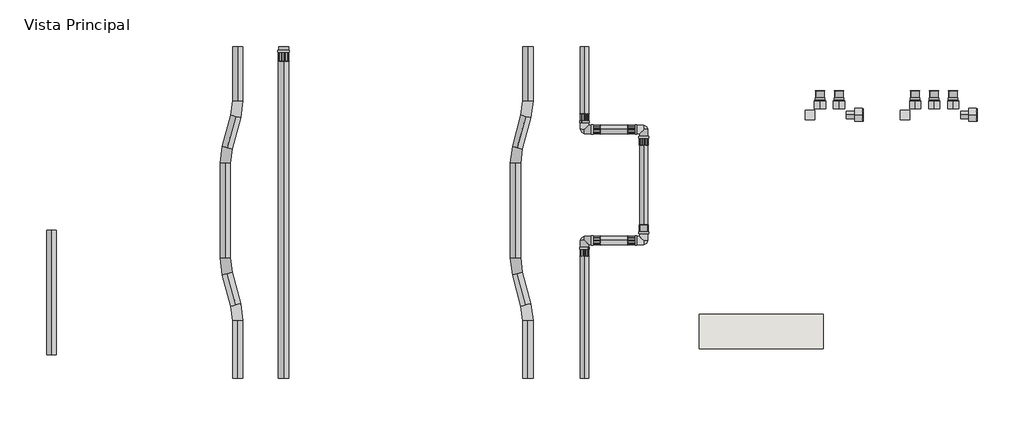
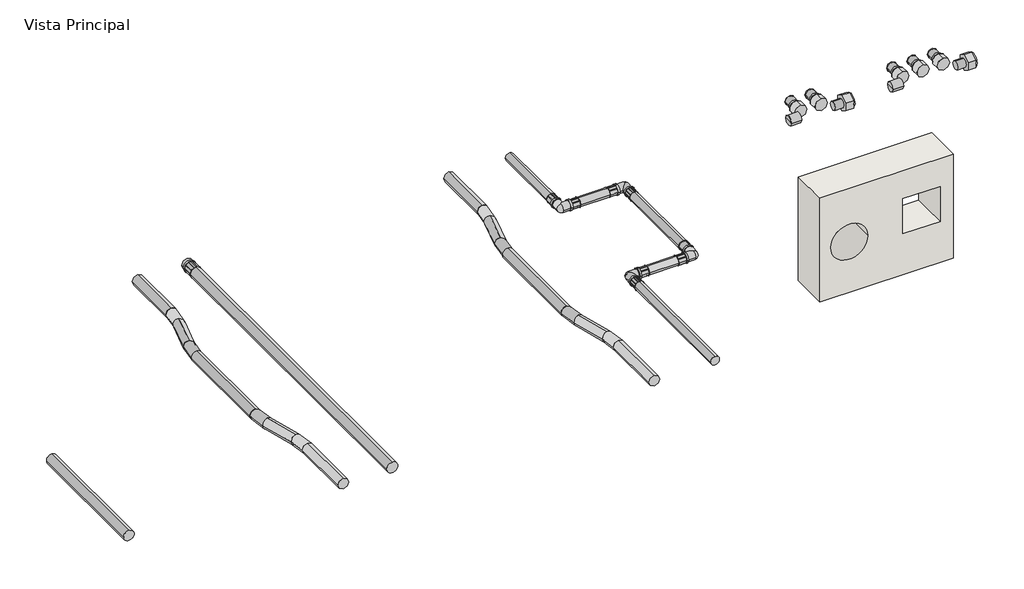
# One storey, incomplete: 36 pipe fittings, 17 pipe segments, 1 wall.
"""IFC4 building model written with IfcOpenShell, lengths in millimetres."""

from ifc_helpers import new_model, si_unit, point, frame, frame_2d, origin, place, context, project, spatial, polyline, circle_curve, trimmed, segment, composite_curve, outline, extrude, transform, mapped, element, save
from components import pipe_fitting_03f075fd, pipe_fitting_e157bfc5, pipe_fitting_eaf84391, pipe_fitting_14b67e64, pipe_fitting_5590baf3, azul_21f91044, rojo_abdd4356, var_25c4f382, var_e74b5a52

model = new_model("IFC4")

# Units and contexts
model_context = context("Model", 3, world=origin())
ifc_project = project(units=[si_unit("LENGTHUNIT", "METRE", prefix="MILLI")], contexts=[model_context])

# Site, building, storey
site = spatial("IfcSite", under=ifc_project)
building = spatial("IfcBuilding", under=site)
storey = spatial("IfcBuildingStorey", under=building, Name="Vista Principal", Elevation=0.0)

# Pipe fittings
placement = place(None, origin())
pipe_fitting_shape = pipe_fitting_03f075fd(model_context)
element("IfcPipeFitting", 1, ObjectType="AmancoWavin_Unionesdetubería_TigrisFlexTapa : Tigris K5", at=placement, inside=storey, context=model_context, shape_type="MappedRepresentation", body=[
    mapped(pipe_fitting_shape, transform((1197.0457902, 1410.1541339, 0.0), x_axis=(0.0, 1.0, 0.0), y_axis=(-1.0, 0.0, 0.0), z_axis=(0.0, 0.0, 1.0))),
])
pipe_fitting_2_shape = pipe_fitting_e157bfc5(model_context)
element("IfcPipeFitting", 2, ObjectType="AmancoWavin_Unionesdetubería_TigrisFlexCodo : Tigris K5", at=placement, inside=storey, context=model_context, shape_type="MappedRepresentation", body=[
    mapped(pipe_fitting_2_shape, transform((2068.0670805, 1170.1541339, 0.0), x_axis=(0.0, -1.0, 0.0), y_axis=(1.0, 0.0, 0.0), z_axis=(0.0, 0.0, 1.0))),
])
element("IfcPipeFitting", 3, ObjectType="AmancoWavin_Unionesdetubería_TigrisFlexCodo : Tigris K5", at=placement, inside=storey, context=model_context, shape_type="MappedRepresentation", body=[
    mapped(pipe_fitting_2_shape, transform((2239.7994926, 1170.1541339, 0.0), x_axis=(0.0, 1.0, 0.0), y_axis=(-1.0, 0.0, 0.0), z_axis=(0.0, 0.0, 1.0))),
])
element("IfcPipeFitting", 4, ObjectType="AmancoWavin_Unionesdetubería_TigrisFlexCodo : Tigris K5", at=placement, inside=storey, context=model_context, shape_type="MappedRepresentation", body=[
    mapped(pipe_fitting_2_shape, transform((2239.7994926, 848.6503168, 0.0), x_axis=(1.0, 0.0, 0.0), y_axis=(0.0, 1.0, 0.0), z_axis=(0.0, 0.0, 1.0))),
])
element("IfcPipeFitting", 5, ObjectType="AmancoWavin_Unionesdetubería_TigrisFlexCodo : Tigris K5", at=placement, inside=storey, context=model_context, shape_type="MappedRepresentation", body=[
    mapped(pipe_fitting_2_shape, transform((2068.0670805, 848.6503168, 0.0), x_axis=(-1.0, 0.0, 0.0), y_axis=(0.0, -1.0, 0.0), z_axis=(0.0, 0.0, 1.0))),
])
pipe_fitting_3_shape = pipe_fitting_eaf84391(model_context)
element("IfcPipeFitting", 6, ObjectType="AmancoWavin_Unionesdetubería_TigrisFlexZNoUsarCampana : Tigris K5", at=placement, inside=storey, context=model_context, shape_type="MappedRepresentation", body=[
    mapped(pipe_fitting_3_shape, transform((2068.0670805, 1190.1541339, 0.0), x_axis=(0.0, -1.0, 0.0), y_axis=(1.0, 0.0, 0.0), z_axis=(0.0, 0.0, 1.0))),
])
element("IfcPipeFitting", 7, ObjectType="AmancoWavin_Unionesdetubería_TigrisFlexZNoUsarCampana : Tigris K5", at=placement, inside=storey, context=model_context, shape_type="MappedRepresentation", body=[
    mapped(pipe_fitting_3_shape, transform((2088.0670805, 1170.1541339, 0.0), x_axis=(-1.0, 0.0, 0.0), y_axis=(0.0, -1.0, 0.0), z_axis=(0.0, 0.0, 1.0))),
])
element("IfcPipeFitting", 8, ObjectType="AmancoWavin_Unionesdetubería_TigrisFlexZNoUsarCampana : Tigris K5", at=placement, inside=storey, context=model_context, shape_type="MappedRepresentation", body=[
    mapped(pipe_fitting_3_shape, transform((2239.7994926, 1150.1541339, 0.0), x_axis=(0.0, 1.0, 0.0), y_axis=(-1.0, 0.0, 0.0), z_axis=(0.0, 0.0, 1.0))),
])
element("IfcPipeFitting", 9, ObjectType="AmancoWavin_Unionesdetubería_TigrisFlexZNoUsarCampana : Tigris K5", at=placement, inside=storey, context=model_context, shape_type="MappedRepresentation", body=[
    mapped(pipe_fitting_3_shape, transform((2219.7994926, 1170.1541339, 0.0), x_axis=(1.0, 0.0, 0.0), y_axis=(0.0, 1.0, 0.0), z_axis=(0.0, 0.0, 1.0))),
])
element("IfcPipeFitting", 10, ObjectType="AmancoWavin_Unionesdetubería_TigrisFlexZNoUsarCampana : Tigris K5", at=placement, inside=storey, context=model_context, shape_type="MappedRepresentation", body=[
    mapped(pipe_fitting_3_shape, transform((2219.7994926, 848.6503168, 0.0), x_axis=(1.0, 0.0, 0.0), y_axis=(0.0, 1.0, 0.0), z_axis=(0.0, 0.0, 1.0))),
])
element("IfcPipeFitting", 11, ObjectType="AmancoWavin_Unionesdetubería_TigrisFlexZNoUsarCampana : Tigris K5", at=placement, inside=storey, context=model_context, shape_type="MappedRepresentation", body=[
    mapped(pipe_fitting_3_shape, transform((2239.7994926, 868.6503168, 0.0), x_axis=(0.0, -1.0, 0.0), y_axis=(1.0, 0.0, 0.0), z_axis=(0.0, 0.0, 1.0))),
])
element("IfcPipeFitting", 12, ObjectType="AmancoWavin_Unionesdetubería_TigrisFlexZNoUsarCampana : Tigris K5", at=placement, inside=storey, context=model_context, shape_type="MappedRepresentation", body=[
    mapped(pipe_fitting_3_shape, transform((2088.0670805, 848.6503168, 0.0), x_axis=(-1.0, 0.0, 0.0), y_axis=(0.0, -1.0, 0.0), z_axis=(0.0, 0.0, 1.0))),
])
element("IfcPipeFitting", 13, ObjectType="AmancoWavin_Unionesdetubería_TigrisFlexZNoUsarCampana : Tigris K5", at=placement, inside=storey, context=model_context, shape_type="MappedRepresentation", body=[
    mapped(pipe_fitting_3_shape, transform((2068.0670805, 828.6503168, 0.0), x_axis=(0.0, 1.0, 0.0), y_axis=(-1.0, 0.0, 0.0), z_axis=(0.0, 0.0, 1.0))),
])
element("IfcPipeFitting", 14, ObjectType="AmancoWavin_Unionesdetubería_TigrisFlexZNoUsarCampana : Tigris K5", at=placement, inside=storey, context=model_context, shape_type="MappedRepresentation", body=[
    mapped(pipe_fitting_3_shape, transform((3025.5640135, 1256.7428958, 0.0), x_axis=(0.0, -1.0, 0.0), y_axis=(1.0, 0.0, 0.0), z_axis=(0.0, 0.0, 1.0))),
])
element("IfcPipeFitting", 15, ObjectType="AmancoWavin_Unionesdetubería_TigrisFlexZNoUsarCampana : Tigris K5", at=placement, inside=storey, context=model_context, shape_type="MappedRepresentation", body=[
    mapped(pipe_fitting_3_shape, transform((3080.5640135, 1256.7428958, 0.0), x_axis=(0.0, -1.0, 0.0), y_axis=(1.0, 0.0, 0.0), z_axis=(0.0, 0.0, 1.0))),
])
element("IfcPipeFitting", 16, ObjectType="AmancoWavin_Unionesdetubería_TigrisFlexZNoUsarCampana : Tigris K5", at=placement, inside=storey, context=model_context, shape_type="MappedRepresentation", body=[
    mapped(pipe_fitting_3_shape, transform((3135.5640135, 1256.7428958, 0.0), x_axis=(0.0, -1.0, 0.0), y_axis=(1.0, 0.0, 0.0), z_axis=(0.0, 0.0, 1.0))),
])
element("IfcPipeFitting", 17, ObjectType="AmancoWavin_Unionesdetubería_TigrisFlexZNoUsarCampana : Tigris K5", at=placement, inside=storey, context=model_context, shape_type="MappedRepresentation", body=[
    mapped(pipe_fitting_3_shape, transform((2750.3292479, 1256.7428958, 0.0), x_axis=(0.0, -1.0, 0.0), y_axis=(1.0, 0.0, 0.0), z_axis=(0.0, 0.0, 1.0))),
])
element("IfcPipeFitting", 18, ObjectType="AmancoWavin_Unionesdetubería_TigrisFlexZNoUsarCampana : Tigris K5", at=placement, inside=storey, context=model_context, shape_type="MappedRepresentation", body=[
    mapped(pipe_fitting_3_shape, transform((2805.3292479, 1256.7428958, 0.0), x_axis=(0.0, -1.0, 0.0), y_axis=(1.0, 0.0, 0.0), z_axis=(0.0, 0.0, 1.0))),
])
pipe_fitting_4_shape = pipe_fitting_14b67e64(model_context)
element("IfcPipeFitting", 19, ObjectType="AmancoWavin_Unionesdetubería_TigrisFlexZNoUsarCampana : Tigris K5", at=placement, inside=storey, context=model_context, shape_type="MappedRepresentation", body=[
    mapped(pipe_fitting_4_shape, transform((1197.0457902, 1398.1541339, 0.0), x_axis=(0.0, 1.0, 0.0), y_axis=(-1.0, 0.0, 0.0), z_axis=(0.0, 0.0, 1.0))),
])
pipe_fitting_5_shape = pipe_fitting_5590baf3(model_context)
element("IfcPipeFitting", 20, ObjectType="AmancoWavin_Unionesdetubería_TigrisFlexZNoUsarConectorRosHembra : Tigris K5", at=placement, inside=storey, context=model_context, shape_type="MappedRepresentation", body=[
    mapped(pipe_fitting_5_shape, transform((3025.5640135, 1254.2428958, 0.0), x_axis=(0.0, 1.0, 0.0), y_axis=(-1.0, 0.0, 0.0), z_axis=(0.0, 0.0, 1.0))),
])
element("IfcPipeFitting", 21, ObjectType="AmancoWavin_Unionesdetubería_TigrisFlexZNoUsarConectorRosHembra : Tigris K5", at=placement, inside=storey, context=model_context, shape_type="MappedRepresentation", body=[
    mapped(pipe_fitting_5_shape, transform((3080.5640135, 1254.2428958, 0.0), x_axis=(0.0, 1.0, 0.0), y_axis=(-1.0, 0.0, 0.0), z_axis=(0.0, 0.0, 1.0))),
])
element("IfcPipeFitting", 22, ObjectType="AmancoWavin_Unionesdetubería_TigrisFlexZNoUsarConectorRosHembra : Tigris K5", at=placement, inside=storey, context=model_context, shape_type="MappedRepresentation", body=[
    mapped(pipe_fitting_5_shape, transform((3135.5640135, 1254.2428958, 0.0), x_axis=(0.0, 1.0, 0.0), y_axis=(-1.0, 0.0, 0.0), z_axis=(0.0, 0.0, 1.0))),
])
element("IfcPipeFitting", 23, ObjectType="AmancoWavin_Unionesdetubería_TigrisFlexZNoUsarConectorRosHembra : Tigris K5", at=placement, inside=storey, context=model_context, shape_type="MappedRepresentation", body=[
    mapped(pipe_fitting_5_shape, transform((2750.3292479, 1254.2428958, 0.0), x_axis=(0.0, 1.0, 0.0), y_axis=(-1.0, 0.0, 0.0), z_axis=(0.0, 0.0, 1.0))),
])
element("IfcPipeFitting", 24, ObjectType="AmancoWavin_Unionesdetubería_TigrisFlexZNoUsarConectorRosHembra : Tigris K5", at=placement, inside=storey, context=model_context, shape_type="MappedRepresentation", body=[
    mapped(pipe_fitting_5_shape, transform((2805.3292479, 1254.2428958, 0.0), x_axis=(0.0, 1.0, 0.0), y_axis=(-1.0, 0.0, 0.0), z_axis=(0.0, 0.0, 1.0))),
])
azul_shape = azul_21f91044(model_context)
element("IfcPipeFitting", 25, ObjectType="AmancoWavin_UnionesdeTubería_TigrisFlexTuberíaFlexible : AZUL", at=placement, inside=storey, context=model_context, shape_type="MappedRepresentation", body=[
    mapped(azul_shape, transform((1028.1910021, 1094.9245183, 0.0), x_axis=(-0.25881904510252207, -0.965925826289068, 0.0), y_axis=(0.965925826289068, -0.25881904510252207, 0.0), z_axis=(0.0, 0.0, 1.0))),
])
element("IfcPipeFitting", 26, ObjectType="AmancoWavin_UnionesdeTubería_TigrisFlexTuberíaFlexible : AZUL", at=placement, inside=storey, context=model_context, shape_type="MappedRepresentation", body=[
    mapped(azul_shape, transform((1028.1910021, 774.9245183, 0.0), x_axis=(0.0, -1.0, 0.0), y_axis=(1.0, 0.0, 0.0), z_axis=(0.0, 0.0, 1.0))),
])
element("IfcPipeFitting", 27, ObjectType="AmancoWavin_UnionesdeTubería_TigrisFlexTuberíaFlexible : AZUL", at=placement, inside=storey, context=model_context, shape_type="MappedRepresentation", body=[
    mapped(azul_shape, transform((1064.4256685, 1230.1541339, 0.0), x_axis=(0.2588190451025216, 0.9659258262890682, 0.0), y_axis=(-0.9659258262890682, 0.2588190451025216, 0.0), z_axis=(0.0, 0.0, 1.0))),
])
element("IfcPipeFitting", 28, ObjectType="AmancoWavin_UnionesdeTubería_TigrisFlexTuberíaFlexible : AZUL", at=placement, inside=storey, context=model_context, shape_type="MappedRepresentation", body=[
    mapped(azul_shape, transform((1064.4256685, 639.6949026, 0.0), x_axis=(0.0, 1.0, 0.0), y_axis=(-1.0, 0.0, 0.0), z_axis=(0.0, 0.0, 1.0))),
])
rojo_shape = rojo_abdd4356(model_context)
element("IfcPipeFitting", 29, ObjectType="AmancoWavin_UnionesdeTubería_TigrisFlexTuberíaFlexible : ROJO", at=placement, inside=storey, context=model_context, shape_type="MappedRepresentation", body=[
    mapped(rojo_shape, transform((1868.1910021, 1094.9245183, 0.0), x_axis=(-0.2588190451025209, -0.9659258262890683, 0.0), y_axis=(0.9659258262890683, -0.2588190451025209, 0.0), z_axis=(0.0, 0.0, 1.0))),
])
element("IfcPipeFitting", 30, ObjectType="AmancoWavin_UnionesdeTubería_TigrisFlexTuberíaFlexible : ROJO", at=placement, inside=storey, context=model_context, shape_type="MappedRepresentation", body=[
    mapped(rojo_shape, transform((1868.1910021, 774.9245183, 0.0), x_axis=(0.0, -1.0, 0.0), y_axis=(1.0, 0.0, 0.0), z_axis=(0.0, 0.0, 1.0))),
])
element("IfcPipeFitting", 31, ObjectType="AmancoWavin_UnionesdeTubería_TigrisFlexTuberíaFlexible : ROJO", at=placement, inside=storey, context=model_context, shape_type="MappedRepresentation", body=[
    mapped(rojo_shape, transform((1904.4256685, 1230.1541339, 0.0), x_axis=(0.2588190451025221, 0.965925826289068, 0.0), y_axis=(-0.965925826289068, 0.2588190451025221, 0.0), z_axis=(0.0, 0.0, 1.0))),
])
element("IfcPipeFitting", 32, ObjectType="AmancoWavin_UnionesdeTubería_TigrisFlexTuberíaFlexible : ROJO", at=placement, inside=storey, context=model_context, shape_type="MappedRepresentation", body=[
    mapped(rojo_shape, transform((1904.4256685, 639.6949026, 0.0), x_axis=(0.0, 1.0, 0.0), y_axis=(-1.0, 0.0, 0.0), z_axis=(0.0, 0.0, 1.0))),
])
var_shape = var_25c4f382(model_context)
element("IfcPipeFitting", 33, ObjectType="AmancoWavin_Unionesdetubería_TigrisFlexZNoUsarTapaHembraManifold : Var.", at=placement, inside=storey, context=model_context, shape_type="MappedRepresentation", body=[
    mapped(var_shape, transform((2714.3292479, 1212.3428958, 0.0), x_axis=(-1.0, 0.0, 0.0), y_axis=(0.0, -1.0, 0.0), z_axis=(0.0, 0.0, 1.0))),
])
element("IfcPipeFitting", 34, ObjectType="AmancoWavin_Unionesdetubería_TigrisFlexZNoUsarTapaHembraManifold : Var.", at=placement, inside=storey, context=model_context, shape_type="MappedRepresentation", body=[
    mapped(var_shape, transform((2989.5640135, 1212.3428958, 0.0), x_axis=(-1.0, 0.0, 0.0), y_axis=(0.0, -1.0, 0.0), z_axis=(0.0, 0.0, 1.0))),
])
var_2_shape = var_e74b5a52(model_context)
element("IfcPipeFitting", 35, ObjectType="AmancoWavin_Unionesdetubería_TigrisFlexZNoUsarRoscaHembraMachoManifold(nested) : Var.", at=placement, inside=storey, context=model_context, shape_type="MappedRepresentation", body=[
    mapped(var_2_shape, transform((2826.8292479, 1212.3428958, 0.0), x_axis=(1.0, 0.0, 0.0), y_axis=(0.0, 1.0, 0.0), z_axis=(0.0, 0.0, 1.0))),
])
element("IfcPipeFitting", 36, ObjectType="AmancoWavin_Unionesdetubería_TigrisFlexZNoUsarRoscaHembraMachoManifold(nested) : Var.", at=placement, inside=storey, context=model_context, shape_type="MappedRepresentation", body=[
    mapped(var_2_shape, transform((3157.0640135, 1212.3428958, 0.0), x_axis=(1.0, 0.0, 0.0), y_axis=(0.0, 1.0, 0.0), z_axis=(0.0, 0.0, 1.0))),
])

# Pipe segments
element("IfcPipeSegment", 37, ObjectType="AmancoWavin_TuberíasFlexibles_TIGRISFLEXAzul 16-32 mm (50 mts-100 mts)", at=placement, inside=storey, context=model_context, shape_type="SweptSolid", body=[
    extrude(outline(composite_curve([segment(trimmed(circle_curve(frame_2d((0.0, 1197.0457902)), 14.8), [point((0.0, 1182.2457902))], [point((-14.8, 1197.0457902))], False, "CARTESIAN"), True, "CONTINUOUS"), segment(trimmed(circle_curve(frame_2d((0.0, 1197.0457902)), 14.8), [point((-14.8, 1197.0457902))], [point((0.0, 1211.8457902))], False, "CARTESIAN"), True, "CONTINUOUS"), segment(trimmed(circle_curve(frame_2d((0.0, 1197.0457902)), 14.8), [point((0.0, 1211.8457902))], [point((14.8, 1197.0457902))], False, "CARTESIAN"), True, "CONTINUOUS"), segment(trimmed(circle_curve(frame_2d((0.0, 1197.0457902)), 14.8), [point((14.8, 1197.0457902))], [point((0.0, 1182.2457902))], False, "CARTESIAN"), True, "CONTINUOUS")], self_intersect=False)), frame((0.0, 450.1541339, 0.0), z_axis=(0.0, 1.0, 0.0), x_axis=(0.0, 0.0, 1.0)), (0.0, 0.0, 1.0), 948.0),
])
element("IfcPipeSegment", 38, ObjectType="AmancoWavin_TuberíasFlexibles_TIGRISFLEXRojo 16-32 mm (50 mts-100 mts)", at=placement, inside=storey, context=model_context, shape_type="SweptSolid", body=[
    extrude(outline(composite_curve([segment(trimmed(circle_curve(frame_2d((0.0, -14.8)), 14.8), [point((-14.8, -14.8))], [point((0.0, 0.0))], False, "CARTESIAN"), True, "CONTINUOUS"), segment(trimmed(circle_curve(frame_2d((0.0, -14.8)), 14.8), [point((0.0, 0.0))], [point((14.8, -14.8))], False, "CARTESIAN"), True, "CONTINUOUS"), segment(trimmed(circle_curve(frame_2d((0.0, -14.8)), 14.8), [point((14.8, -14.8))], [point((0.0, -29.6))], False, "CARTESIAN"), True, "CONTINUOUS"), segment(trimmed(circle_curve(frame_2d((0.0, -14.8)), 14.8), [point((0.0, -29.6))], [point((-14.8, -14.8))], False, "CARTESIAN"), True, "CONTINUOUS")], self_intersect=False)), frame((1874.2425754, 1117.5092971, -14.8), z_axis=(0.25881904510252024, 0.9659258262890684, 0.0), x_axis=(0.9659258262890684, -0.25881904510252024, 0.0)), (0.0, 0.0, 1.0), 93.2370329),
])
element("IfcPipeSegment", 39, ObjectType="AmancoWavin_TuberíasFlexibles_TIGRISFLEXRojo 16-32 mm (50 mts-100 mts)", at=placement, inside=storey, context=model_context, shape_type="SweptSolid", body=[
    extrude(outline(composite_curve([segment(trimmed(circle_curve(frame_2d((0.0, 1868.1910021)), 14.8), [point((0.0, 1853.3910021))], [point((-14.8, 1868.1910021))], False, "CARTESIAN"), True, "CONTINUOUS"), segment(trimmed(circle_curve(frame_2d((0.0, 1868.1910021)), 14.8), [point((-14.8, 1868.1910021))], [point((0.0, 1882.9910021))], False, "CARTESIAN"), True, "CONTINUOUS"), segment(trimmed(circle_curve(frame_2d((0.0, 1868.1910021)), 14.8), [point((0.0, 1882.9910021))], [point((14.8, 1868.1910021))], False, "CARTESIAN"), True, "CONTINUOUS"), segment(trimmed(circle_curve(frame_2d((0.0, 1868.1910021)), 14.8), [point((14.8, 1868.1910021))], [point((0.0, 1853.3910021))], False, "CARTESIAN"), True, "CONTINUOUS")], self_intersect=False)), frame((0.0, 798.3060018, 0.0), z_axis=(0.0, 1.0, 0.0), x_axis=(0.0, 0.0, 1.0)), (0.0, 0.0, 1.0), 273.2370329),
])
element("IfcPipeSegment", 40, ObjectType="AmancoWavin_TuberíasFlexibles_TIGRISFLEXRojo 16-32 mm (50 mts-100 mts)", at=placement, inside=storey, context=model_context, shape_type="SweptSolid", body=[
    extrude(outline(composite_curve([segment(trimmed(circle_curve(frame_2d((0.0, 14.8)), 14.8), [point((14.8, 14.8))], [point((0.0, 0.0))], False, "CARTESIAN"), True, "CONTINUOUS"), segment(trimmed(circle_curve(frame_2d((0.0, 14.8)), 14.8), [point((0.0, 0.0))], [point((-14.8, 14.8))], False, "CARTESIAN"), True, "CONTINUOUS"), segment(trimmed(circle_curve(frame_2d((0.0, 14.8)), 14.8), [point((-14.8, 14.8))], [point((0.0, 29.6))], False, "CARTESIAN"), True, "CONTINUOUS"), segment(trimmed(circle_curve(frame_2d((0.0, 14.8)), 14.8), [point((0.0, 29.6))], [point((14.8, 14.8))], False, "CARTESIAN"), True, "CONTINUOUS")], self_intersect=False)), frame((1898.3740952, 662.2796814, 14.8), z_axis=(-0.25881904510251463, 0.96592582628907, 0.0), x_axis=(0.96592582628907, 0.25881904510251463, 0.0)), (0.0, 0.0, 1.0), 93.2370329),
])
element("IfcPipeSegment", 41, ObjectType="AmancoWavin_TuberíasFlexibles_TIGRISFLEXRojo 16-32 mm (50 mts-100 mts)", at=placement, inside=storey, context=model_context, shape_type="SweptSolid", body=[
    extrude(outline(composite_curve([segment(trimmed(circle_curve(frame_2d((0.0, 1904.4256685)), 14.8), [point((0.0, 1889.6256685))], [point((-14.8, 1904.4256685))], False, "CARTESIAN"), True, "CONTINUOUS"), segment(trimmed(circle_curve(frame_2d((0.0, 1904.4256685)), 14.8), [point((-14.8, 1904.4256685))], [point((0.0, 1919.2256685))], False, "CARTESIAN"), True, "CONTINUOUS"), segment(trimmed(circle_curve(frame_2d((0.0, 1904.4256685)), 14.8), [point((0.0, 1919.2256685))], [point((14.8, 1904.4256685))], False, "CARTESIAN"), True, "CONTINUOUS"), segment(trimmed(circle_curve(frame_2d((0.0, 1904.4256685)), 14.8), [point((14.8, 1904.4256685))], [point((0.0, 1889.6256685))], False, "CARTESIAN"), True, "CONTINUOUS")], self_intersect=False)), frame((0.0, 1253.5356175, 0.0), z_axis=(0.0, 1.0, 0.0), x_axis=(0.0, 0.0, 1.0)), (0.0, 0.0, 1.0), 156.6185164),
])
element("IfcPipeSegment", 42, ObjectType="AmancoWavin_TuberíasFlexibles_TIGRISFLEXRojo 16-32 mm (50 mts-100 mts)", at=placement, inside=storey, context=model_context, shape_type="SweptSolid", body=[
    extrude(outline(composite_curve([segment(trimmed(circle_curve(frame_2d((0.0, 1904.4256685)), 14.8), [point((0.0, 1919.2256685))], [point((14.8, 1904.4256685))], False, "CARTESIAN"), True, "CONTINUOUS"), segment(trimmed(circle_curve(frame_2d((0.0, 1904.4256685)), 14.8), [point((14.8, 1904.4256685))], [point((0.0, 1889.6256685))], False, "CARTESIAN"), True, "CONTINUOUS"), segment(trimmed(circle_curve(frame_2d((0.0, 1904.4256685)), 14.8), [point((0.0, 1889.6256685))], [point((-14.8, 1904.4256685))], False, "CARTESIAN"), True, "CONTINUOUS"), segment(trimmed(circle_curve(frame_2d((0.0, 1904.4256685)), 14.8), [point((-14.8, 1904.4256685))], [point((0.0, 1919.2256685))], False, "CARTESIAN"), True, "CONTINUOUS")], self_intersect=False)), frame((0.0, 450.1541339, 0.0), z_axis=(0.0, 1.0, 0.0), x_axis=(0.0, 0.0, 1.0)), (0.0, 0.0, 1.0), 166.1592851),
])
element("IfcPipeSegment", 43, ObjectType="Tubo de Transición Universal", at=placement, inside=storey, context=model_context, shape_type="SweptSolid", body=[
    extrude(outline(composite_curve([segment(trimmed(circle_curve(frame_2d((0.0, 524.9354616)), 14.2875), [point((0.0, 510.6479616))], [point((-14.2875, 524.9354616))], False, "CARTESIAN"), True, "CONTINUOUS"), segment(trimmed(circle_curve(frame_2d((0.0, 524.9354616)), 14.2875), [point((-14.2875, 524.9354616))], [point((0.0, 539.2229616))], False, "CARTESIAN"), True, "CONTINUOUS"), segment(trimmed(circle_curve(frame_2d((0.0, 524.9354616)), 14.2875), [point((0.0, 539.2229616))], [point((14.2875, 524.9354616))], False, "CARTESIAN"), True, "CONTINUOUS"), segment(trimmed(circle_curve(frame_2d((0.0, 524.9354616)), 14.2875), [point((14.2875, 524.9354616))], [point((0.0, 510.6479616))], False, "CARTESIAN"), True, "CONTINUOUS")], self_intersect=False)), frame((0.0, 517.9987022, 0.0), z_axis=(0.0, 1.0, 0.0), x_axis=(0.0, 0.0, 1.0)), (0.0, 0.0, 1.0), 360.0),
])
element("IfcPipeSegment", 44, ObjectType="AmancoWavin_TuberíasFlexibles_TIGRISFLEXAzul 16-32 mm (50 mts-100 mts)", at=placement, inside=storey, context=model_context, shape_type="SweptSolid", body=[
    extrude(outline(composite_curve([segment(trimmed(circle_curve(frame_2d((0.0, -14.8)), 14.8), [point((-14.8, -14.8))], [point((0.0, 0.0))], False, "CARTESIAN"), True, "CONTINUOUS"), segment(trimmed(circle_curve(frame_2d((0.0, -14.8)), 14.8), [point((0.0, 0.0))], [point((14.8, -14.8))], False, "CARTESIAN"), True, "CONTINUOUS"), segment(trimmed(circle_curve(frame_2d((0.0, -14.8)), 14.8), [point((14.8, -14.8))], [point((0.0, -29.6))], False, "CARTESIAN"), True, "CONTINUOUS"), segment(trimmed(circle_curve(frame_2d((0.0, -14.8)), 14.8), [point((0.0, -29.6))], [point((-14.8, -14.8))], False, "CARTESIAN"), True, "CONTINUOUS")], self_intersect=False)), frame((1034.2425754, 1117.5092971, -14.8), z_axis=(0.25881904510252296, 0.9659258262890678, 0.0), x_axis=(0.9659258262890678, -0.25881904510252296, 0.0)), (0.0, 0.0, 1.0), 93.2370329),
])
element("IfcPipeSegment", 45, ObjectType="AmancoWavin_TuberíasFlexibles_TIGRISFLEXAzul 16-32 mm (50 mts-100 mts)", at=placement, inside=storey, context=model_context, shape_type="SweptSolid", body=[
    extrude(outline(composite_curve([segment(trimmed(circle_curve(frame_2d((0.0, 1028.1910021)), 14.8), [point((0.0, 1013.3910021))], [point((-14.8, 1028.1910021))], False, "CARTESIAN"), True, "CONTINUOUS"), segment(trimmed(circle_curve(frame_2d((0.0, 1028.1910021)), 14.8), [point((-14.8, 1028.1910021))], [point((0.0, 1042.9910021))], False, "CARTESIAN"), True, "CONTINUOUS"), segment(trimmed(circle_curve(frame_2d((0.0, 1028.1910021)), 14.8), [point((0.0, 1042.9910021))], [point((14.8, 1028.1910021))], False, "CARTESIAN"), True, "CONTINUOUS"), segment(trimmed(circle_curve(frame_2d((0.0, 1028.1910021)), 14.8), [point((14.8, 1028.1910021))], [point((0.0, 1013.3910021))], False, "CARTESIAN"), True, "CONTINUOUS")], self_intersect=False)), frame((0.0, 798.3060018, 0.0), z_axis=(0.0, 1.0, 0.0), x_axis=(0.0, 0.0, 1.0)), (0.0, 0.0, 1.0), 273.2370329),
])
element("IfcPipeSegment", 46, ObjectType="AmancoWavin_TuberíasFlexibles_TIGRISFLEXAzul 16-32 mm (50 mts-100 mts)", at=placement, inside=storey, context=model_context, shape_type="SweptSolid", body=[
    extrude(outline(composite_curve([segment(trimmed(circle_curve(frame_2d((0.0, 14.8)), 14.8), [point((14.8, 14.8))], [point((0.0, 0.0))], False, "CARTESIAN"), True, "CONTINUOUS"), segment(trimmed(circle_curve(frame_2d((0.0, 14.8)), 14.8), [point((0.0, 0.0))], [point((-14.8, 14.8))], False, "CARTESIAN"), True, "CONTINUOUS"), segment(trimmed(circle_curve(frame_2d((0.0, 14.8)), 14.8), [point((-14.8, 14.8))], [point((0.0, 29.6))], False, "CARTESIAN"), True, "CONTINUOUS"), segment(trimmed(circle_curve(frame_2d((0.0, 14.8)), 14.8), [point((0.0, 29.6))], [point((14.8, 14.8))], False, "CARTESIAN"), True, "CONTINUOUS")], self_intersect=False)), frame((1058.3740952, 662.2796814, 14.8), z_axis=(-0.2588190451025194, 0.9659258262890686, 0.0), x_axis=(0.9659258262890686, 0.2588190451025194, 0.0)), (0.0, 0.0, 1.0), 93.2370329),
])
element("IfcPipeSegment", 47, ObjectType="AmancoWavin_TuberíasFlexibles_TIGRISFLEXAzul 16-32 mm (50 mts-100 mts)", at=placement, inside=storey, context=model_context, shape_type="SweptSolid", body=[
    extrude(outline(composite_curve([segment(trimmed(circle_curve(frame_2d((0.0, 1064.4256685)), 14.8), [point((0.0, 1049.6256685))], [point((-14.8, 1064.4256685))], False, "CARTESIAN"), True, "CONTINUOUS"), segment(trimmed(circle_curve(frame_2d((0.0, 1064.4256685)), 14.8), [point((-14.8, 1064.4256685))], [point((0.0, 1079.2256685))], False, "CARTESIAN"), True, "CONTINUOUS"), segment(trimmed(circle_curve(frame_2d((0.0, 1064.4256685)), 14.8), [point((0.0, 1079.2256685))], [point((14.8, 1064.4256685))], False, "CARTESIAN"), True, "CONTINUOUS"), segment(trimmed(circle_curve(frame_2d((0.0, 1064.4256685)), 14.8), [point((14.8, 1064.4256685))], [point((0.0, 1049.6256685))], False, "CARTESIAN"), True, "CONTINUOUS")], self_intersect=False)), frame((0.0, 1253.5356175, 0.0), z_axis=(0.0, 1.0, 0.0), x_axis=(0.0, 0.0, 1.0)), (0.0, 0.0, 1.0), 156.6185164),
])
element("IfcPipeSegment", 48, ObjectType="AmancoWavin_TuberíasFlexibles_TIGRISFLEXAzul 16-32 mm (50 mts-100 mts)", at=placement, inside=storey, context=model_context, shape_type="SweptSolid", body=[
    extrude(outline(composite_curve([segment(trimmed(circle_curve(frame_2d((0.0, 1064.4256685)), 14.8), [point((0.0, 1079.2256685))], [point((14.8, 1064.4256685))], False, "CARTESIAN"), True, "CONTINUOUS"), segment(trimmed(circle_curve(frame_2d((0.0, 1064.4256685)), 14.8), [point((14.8, 1064.4256685))], [point((0.0, 1049.6256685))], False, "CARTESIAN"), True, "CONTINUOUS"), segment(trimmed(circle_curve(frame_2d((0.0, 1064.4256685)), 14.8), [point((0.0, 1049.6256685))], [point((-14.8, 1064.4256685))], False, "CARTESIAN"), True, "CONTINUOUS"), segment(trimmed(circle_curve(frame_2d((0.0, 1064.4256685)), 14.8), [point((-14.8, 1064.4256685))], [point((0.0, 1079.2256685))], False, "CARTESIAN"), True, "CONTINUOUS")], self_intersect=False)), frame((0.0, 450.1541339, 0.0), z_axis=(0.0, 1.0, 0.0), x_axis=(0.0, 0.0, 1.0)), (0.0, 0.0, 1.0), 166.1592851),
])
element("IfcPipeSegment", 49, ObjectType="AmancoWavin_TuberíasFlexibles_TIGRISFLEXRojo 16-32 mm (50 mts-100 mts)", at=placement, inside=storey, context=model_context, shape_type="SweptSolid", body=[
    extrude(outline(composite_curve([segment(trimmed(circle_curve(frame_2d((0.0, 2068.0670805)), 12.0), [point((0.0, 2056.0670805))], [point((-12.0, 2068.0670805))], False, "CARTESIAN"), True, "CONTINUOUS"), segment(trimmed(circle_curve(frame_2d((0.0, 2068.0670805)), 12.0), [point((-12.0, 2068.0670805))], [point((0.0, 2080.0670805))], False, "CARTESIAN"), True, "CONTINUOUS"), segment(trimmed(circle_curve(frame_2d((0.0, 2068.0670805)), 12.0), [point((0.0, 2080.0670805))], [point((12.0, 2068.0670805))], False, "CARTESIAN"), True, "CONTINUOUS"), segment(trimmed(circle_curve(frame_2d((0.0, 2068.0670805)), 12.0), [point((12.0, 2068.0670805))], [point((0.0, 2056.0670805))], False, "CARTESIAN"), True, "CONTINUOUS")], self_intersect=False)), frame((0.0, 1190.1541339, 0.0), z_axis=(0.0, 1.0, 0.0), x_axis=(0.0, 0.0, 1.0)), (0.0, 0.0, 1.0), 220.0),
])
element("IfcPipeSegment", 50, ObjectType="AmancoWavin_TuberíasFlexibles_TIGRISFLEXRojo 16-32 mm (50 mts-100 mts)", at=placement, inside=storey, context=model_context, shape_type="SweptSolid", body=[
    extrude(outline(composite_curve([segment(trimmed(circle_curve(frame_2d((1170.1541339, 0.0)), 12.0), [point((1158.1541339, 0.0))], [point((1170.1541339, 12.0))], False, "CARTESIAN"), True, "CONTINUOUS"), segment(trimmed(circle_curve(frame_2d((1170.1541339, 0.0)), 12.0), [point((1170.1541339, 12.0))], [point((1182.1541339, 0.0))], False, "CARTESIAN"), True, "CONTINUOUS"), segment(trimmed(circle_curve(frame_2d((1170.1541339, 0.0)), 12.0), [point((1182.1541339, 0.0))], [point((1170.1541339, -12.0))], False, "CARTESIAN"), True, "CONTINUOUS"), segment(trimmed(circle_curve(frame_2d((1170.1541339, 0.0)), 12.0), [point((1170.1541339, -12.0))], [point((1158.1541339, 0.0))], False, "CARTESIAN"), True, "CONTINUOUS")], self_intersect=False)), frame((2088.0670805, 0.0, 0.0), z_axis=(1.0, 0.0, 0.0), x_axis=(0.0, 1.0, 0.0)), (0.0, 0.0, 1.0), 131.7324121),
])
element("IfcPipeSegment", 51, ObjectType="AmancoWavin_TuberíasFlexibles_TIGRISFLEXRojo 16-32 mm (50 mts-100 mts)", at=placement, inside=storey, context=model_context, shape_type="SweptSolid", body=[
    extrude(outline(composite_curve([segment(trimmed(circle_curve(frame_2d((0.0, 2239.7994926)), 12.0), [point((0.0, 2227.7994926))], [point((-12.0, 2239.7994926))], False, "CARTESIAN"), True, "CONTINUOUS"), segment(trimmed(circle_curve(frame_2d((0.0, 2239.7994926)), 12.0), [point((-12.0, 2239.7994926))], [point((0.0, 2251.7994926))], False, "CARTESIAN"), True, "CONTINUOUS"), segment(trimmed(circle_curve(frame_2d((0.0, 2239.7994926)), 12.0), [point((0.0, 2251.7994926))], [point((12.0, 2239.7994926))], False, "CARTESIAN"), True, "CONTINUOUS"), segment(trimmed(circle_curve(frame_2d((0.0, 2239.7994926)), 12.0), [point((12.0, 2239.7994926))], [point((0.0, 2227.7994926))], False, "CARTESIAN"), True, "CONTINUOUS")], self_intersect=False)), frame((0.0, 868.6503168, 0.0), z_axis=(0.0, 1.0, 0.0), x_axis=(0.0, 0.0, 1.0)), (0.0, 0.0, 1.0), 281.5038172),
])
element("IfcPipeSegment", 52, ObjectType="AmancoWavin_TuberíasFlexibles_TIGRISFLEXRojo 16-32 mm (50 mts-100 mts)", at=placement, inside=storey, context=model_context, shape_type="SweptSolid", body=[
    extrude(outline(composite_curve([segment(trimmed(circle_curve(frame_2d((848.6503168, 0.0)), 12.0), [point((860.6503168, 0.0))], [point((848.6503168, -12.0))], False, "CARTESIAN"), True, "CONTINUOUS"), segment(trimmed(circle_curve(frame_2d((848.6503168, 0.0)), 12.0), [point((848.6503168, -12.0))], [point((836.6503168, 0.0))], False, "CARTESIAN"), True, "CONTINUOUS"), segment(trimmed(circle_curve(frame_2d((848.6503168, 0.0)), 12.0), [point((836.6503168, 0.0))], [point((848.6503168, 12.0))], False, "CARTESIAN"), True, "CONTINUOUS"), segment(trimmed(circle_curve(frame_2d((848.6503168, 0.0)), 12.0), [point((848.6503168, 12.0))], [point((860.6503168, 0.0))], False, "CARTESIAN"), True, "CONTINUOUS")], self_intersect=False)), frame((2088.0670805, 0.0, 0.0), z_axis=(1.0, 0.0, 0.0), x_axis=(0.0, 1.0, 0.0)), (0.0, 0.0, 1.0), 131.7324121),
])
element("IfcPipeSegment", 53, ObjectType="AmancoWavin_TuberíasFlexibles_TIGRISFLEXRojo 16-32 mm (50 mts-100 mts)", at=placement, inside=storey, context=model_context, shape_type="SweptSolid", body=[
    extrude(outline(composite_curve([segment(trimmed(circle_curve(frame_2d((0.0, 2068.0670805)), 12.0), [point((0.0, 2056.0670805))], [point((-12.0, 2068.0670805))], False, "CARTESIAN"), True, "CONTINUOUS"), segment(trimmed(circle_curve(frame_2d((0.0, 2068.0670805)), 12.0), [point((-12.0, 2068.0670805))], [point((0.0, 2080.0670805))], False, "CARTESIAN"), True, "CONTINUOUS"), segment(trimmed(circle_curve(frame_2d((0.0, 2068.0670805)), 12.0), [point((0.0, 2080.0670805))], [point((12.0, 2068.0670805))], False, "CARTESIAN"), True, "CONTINUOUS"), segment(trimmed(circle_curve(frame_2d((0.0, 2068.0670805)), 12.0), [point((12.0, 2068.0670805))], [point((0.0, 2056.0670805))], False, "CARTESIAN"), True, "CONTINUOUS")], self_intersect=False)), frame((0.0, 450.1541339, 0.0), z_axis=(0.0, 1.0, 0.0), x_axis=(0.0, 0.0, 1.0)), (0.0, 0.0, 1.0), 378.4961828),
])

# Wall
element("IfcWall", 54, ObjectType="Wall 1", at=placement, inside=storey, context=model_context, shape_type="SweptSolid", body=[
    extrude(outline(polyline([(0.0, 2400.0334456), (0.0, 2760.0334456), (296.5968372, 2760.0334456), (296.5968372, 2400.0334456), (0.0, 2400.0334456)]), holes=[composite_curve([segment(trimmed(circle_curve(frame_2d((144.4282969, 2479.7439049)), 50.0), [point((144.4282969, 2529.7439049))], [point((144.4282969, 2429.7439049))], True, "CARTESIAN"), True, "CONTINUOUS"), segment(trimmed(circle_curve(frame_2d((144.4282969, 2479.7439049)), 50.0), [point((144.4282969, 2429.7439049))], [point((144.4282969, 2529.7439049))], True, "CARTESIAN"), True, "CONTINUOUS")], self_intersect=False), polyline([(216.4896004, 2624.7439049), (216.4896004, 2724.7439049), (116.4896004, 2724.7439049), (116.4896004, 2624.7439049), (216.4896004, 2624.7439049)])]), frame((0.0, 534.852208, 0.0), z_axis=(0.0, 1.0, 0.0), x_axis=(0.0, 0.0, 1.0)), (0.0, 0.0, 1.0), 100.0),
])

save(model, "model.ifc")
